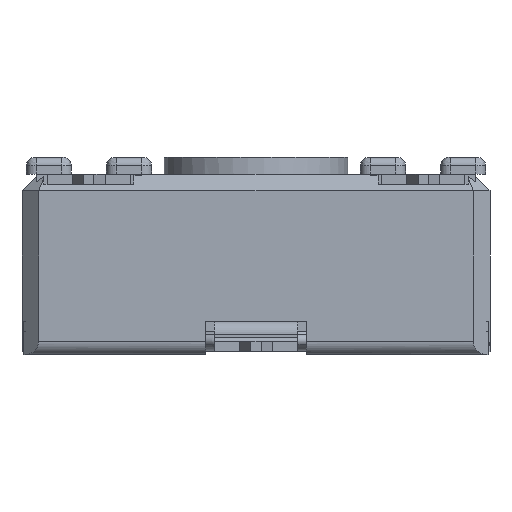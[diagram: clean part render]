
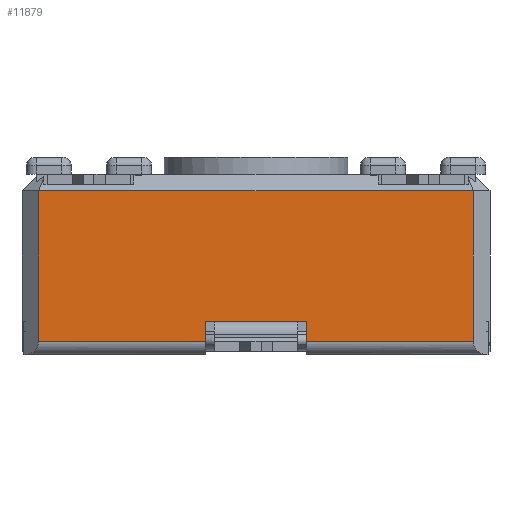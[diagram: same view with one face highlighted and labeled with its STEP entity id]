
A CAD part, front view. The second image highlights one B-rep face of the part: STEP entity #11879.
In plain terms, the highlighted planar face has unit normal (0, -1, 0).
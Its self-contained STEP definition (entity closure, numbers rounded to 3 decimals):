
#774=FACE_OUTER_BOUND('',#1371,.T.);
#1371=EDGE_LOOP('',(#9994,#9995,#9996,#9997,#9998,#9999,#10000,#10001,#10002,
#10003));
#1605=LINE('',#16798,#2844);
#1765=LINE('',#17175,#3004);
#2268=LINE('',#18586,#3507);
#2276=LINE('',#18603,#3515);
#2292=LINE('',#18643,#3531);
#2293=LINE('',#18648,#3532);
#2563=LINE('',#19422,#3802);
#2573=LINE('',#19440,#3812);
#2590=LINE('',#19484,#3829);
#2594=LINE('',#19490,#3833);
#2844=VECTOR('',#13485,10.);
#3004=VECTOR('',#13805,10.);
#3507=VECTOR('',#14978,10.);
#3515=VECTOR('',#14990,10.);
#3531=VECTOR('',#15026,10.);
#3532=VECTOR('',#15033,10.);
#3802=VECTOR('',#15747,10.);
#3812=VECTOR('',#15767,10.);
#3829=VECTOR('',#15808,10.);
#3833=VECTOR('',#15816,10.);
#4492=VERTEX_POINT('',#16796);
#4493=VERTEX_POINT('',#16797);
#4630=VERTEX_POINT('',#17174);
#5058=VERTEX_POINT('',#18583);
#5059=VERTEX_POINT('',#18585);
#5066=VERTEX_POINT('',#18601);
#5080=VERTEX_POINT('',#18642);
#5081=VERTEX_POINT('',#18646);
#5331=VERTEX_POINT('',#19421);
#5339=VERTEX_POINT('',#19482);
#5666=EDGE_CURVE('',#4492,#4493,#1605,.T.);
#5860=EDGE_CURVE('',#4630,#4492,#1765,.T.);
#6504=EDGE_CURVE('',#5058,#5059,#2268,.T.);
#6513=EDGE_CURVE('',#5058,#5066,#2276,.T.);
#6533=EDGE_CURVE('',#4630,#5080,#2292,.T.);
#6536=EDGE_CURVE('',#5080,#5081,#2293,.T.);
#6913=EDGE_CURVE('',#5331,#5059,#2563,.T.);
#6923=EDGE_CURVE('',#4493,#5331,#2573,.T.);
#6941=EDGE_CURVE('',#5339,#5066,#2590,.T.);
#6945=EDGE_CURVE('',#5081,#5339,#2594,.T.);
#9994=ORIENTED_EDGE('',*,*,#6504,.F.);
#9995=ORIENTED_EDGE('',*,*,#6513,.T.);
#9996=ORIENTED_EDGE('',*,*,#6941,.F.);
#9997=ORIENTED_EDGE('',*,*,#6945,.F.);
#9998=ORIENTED_EDGE('',*,*,#6536,.F.);
#9999=ORIENTED_EDGE('',*,*,#6533,.F.);
#10000=ORIENTED_EDGE('',*,*,#5860,.T.);
#10001=ORIENTED_EDGE('',*,*,#5666,.T.);
#10002=ORIENTED_EDGE('',*,*,#6923,.T.);
#10003=ORIENTED_EDGE('',*,*,#6913,.T.);
#10746=PLANE('',#12838);
#11879=ADVANCED_FACE('',(#774),#10746,.T.);
#12838=AXIS2_PLACEMENT_3D('',#19489,#15814,#15815);
#13485=DIRECTION('',(1.,0.,0.));
#13805=DIRECTION('',(1.,0.,0.));
#14978=DIRECTION('',(-1.,0.,0.));
#14990=DIRECTION('',(0.,0.,1.));
#15026=DIRECTION('',(0.,0.,-1.));
#15033=DIRECTION('',(-1.,0.,0.));
#15747=DIRECTION('',(0.,0.,-1.));
#15767=DIRECTION('',(1.,0.,0.));
#15808=DIRECTION('',(1.,0.,0.));
#15814=DIRECTION('center_axis',(0.,-1.,0.));
#15815=DIRECTION('ref_axis',(1.,0.,0.));
#15816=DIRECTION('',(0.,0.,1.));
#16796=CARTESIAN_POINT('',(-11.405,0.3,0.));
#16797=CARTESIAN_POINT('',(-8.905,0.3,0.));
#16798=CARTESIAN_POINT('',(-16.655,0.3,0.));
#17174=CARTESIAN_POINT('',(-11.655,0.3,0.));
#17175=CARTESIAN_POINT('',(-16.655,0.3,0.));
#18583=CARTESIAN_POINT('',(-3.655,0.3,-0.6));
#18585=CARTESIAN_POINT('',(-8.655,0.3,-0.6));
#18586=CARTESIAN_POINT('',(-11.325,0.3,-0.6));
#18601=CARTESIAN_POINT('',(-3.655,0.3,3.9));
#18603=CARTESIAN_POINT('',(-3.655,0.3,0.));
#18642=CARTESIAN_POINT('',(-11.655,0.3,-0.6));
#18643=CARTESIAN_POINT('',(-11.655,0.3,-0.3));
#18646=CARTESIAN_POINT('',(-16.655,0.3,-0.6));
#18648=CARTESIAN_POINT('',(-15.484,0.3,-0.6));
#19421=CARTESIAN_POINT('',(-8.655,0.3,0.));
#19422=CARTESIAN_POINT('',(-8.655,0.3,0.));
#19440=CARTESIAN_POINT('',(-16.655,0.3,0.));
#19482=CARTESIAN_POINT('',(-16.655,0.3,3.9));
#19484=CARTESIAN_POINT('',(-13.405,0.3,3.9));
#19489=CARTESIAN_POINT('Origin',(-16.655,0.3,0.));
#19490=CARTESIAN_POINT('',(-16.655,0.3,0.));
